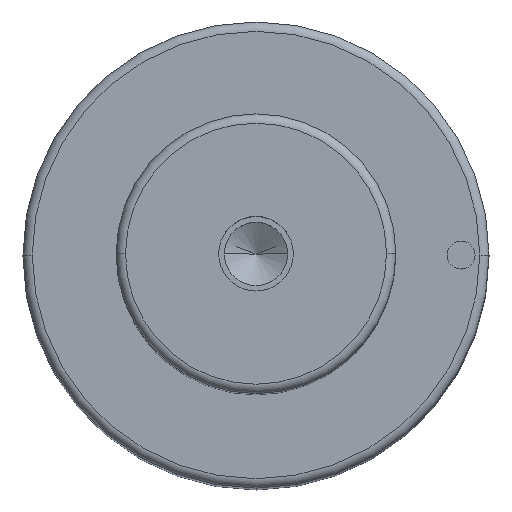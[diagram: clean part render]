
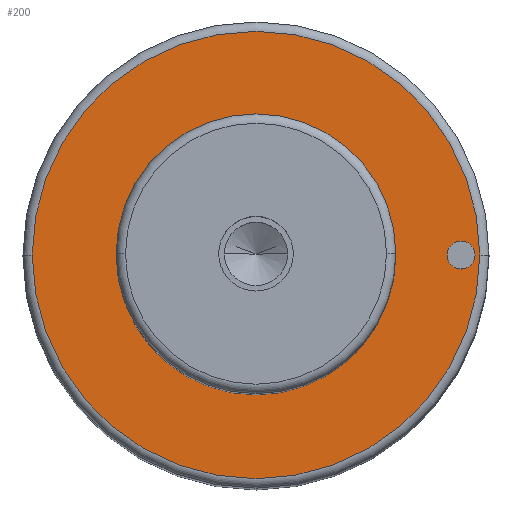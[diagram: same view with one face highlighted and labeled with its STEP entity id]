
A CAD part, top view. The second image highlights one B-rep face of the part: STEP entity #200.
In plain terms, the highlighted planar face has unit normal (0, 0, 1).
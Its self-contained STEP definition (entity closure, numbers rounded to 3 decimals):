
#99=PLANE('',#596);
#107=FACE_BOUND('',#265,.T.);
#108=FACE_BOUND('',#266,.T.);
#109=FACE_BOUND('',#267,.T.);
#200=ADVANCED_FACE('',(#107,#108,#109),#99,.T.);
#265=EDGE_LOOP('',(#359,#360));
#266=EDGE_LOOP('',(#361,#362));
#267=EDGE_LOOP('',(#363,#364));
#359=ORIENTED_EDGE('',*,*,#460,.F.);
#360=ORIENTED_EDGE('',*,*,#461,.F.);
#361=ORIENTED_EDGE('',*,*,#485,.F.);
#362=ORIENTED_EDGE('',*,*,#486,.F.);
#363=ORIENTED_EDGE('',*,*,#456,.T.);
#364=ORIENTED_EDGE('',*,*,#454,.T.);
#411=VERTEX_POINT('',#808);
#412=VERTEX_POINT('',#810);
#413=VERTEX_POINT('',#816);
#416=VERTEX_POINT('',#821);
#430=VERTEX_POINT('',#875);
#431=VERTEX_POINT('',#876);
#454=EDGE_CURVE('',#412,#411,#513,.T.);
#456=EDGE_CURVE('',#411,#412,#514,.T.);
#460=EDGE_CURVE('',#416,#413,#518,.T.);
#461=EDGE_CURVE('',#413,#416,#519,.T.);
#485=EDGE_CURVE('',#430,#431,#533,.T.);
#486=EDGE_CURVE('',#431,#430,#534,.T.);
#513=CIRCLE('',#558,15.);
#514=CIRCLE('',#560,15.);
#518=CIRCLE('',#565,24.);
#519=CIRCLE('',#567,24.);
#533=CIRCLE('',#594,1.5);
#534=CIRCLE('',#595,1.5);
#558=AXIS2_PLACEMENT_3D('',#809,#647,#648);
#560=AXIS2_PLACEMENT_3D('',#813,#652,#653);
#565=AXIS2_PLACEMENT_3D('',#822,#662,#663);
#567=AXIS2_PLACEMENT_3D('',#824,#666,#667);
#594=AXIS2_PLACEMENT_3D('',#874,#730,#731);
#595=AXIS2_PLACEMENT_3D('',#877,#732,#733);
#596=AXIS2_PLACEMENT_3D('',#878,#734,#735);
#647=DIRECTION('',(0.,0.,-1.));
#648=DIRECTION('',(0.,1.,0.));
#652=DIRECTION('',(0.,0.,-1.));
#653=DIRECTION('',(0.,-1.,0.));
#662=DIRECTION('',(0.,0.,-1.));
#663=DIRECTION('',(0.,1.,0.));
#666=DIRECTION('',(0.,0.,-1.));
#667=DIRECTION('',(0.,-1.,0.));
#730=DIRECTION('',(0.,0.,1.));
#731=DIRECTION('',(0.,1.,0.));
#732=DIRECTION('',(0.,0.,1.));
#733=DIRECTION('',(0.,-1.,0.));
#734=DIRECTION('',(0.,0.,1.));
#735=DIRECTION('',(0.,-1.,0.));
#808=CARTESIAN_POINT('',(-15.,0.,119.));
#809=CARTESIAN_POINT('',(0.,0.,119.));
#810=CARTESIAN_POINT('',(15.,0.,119.));
#813=CARTESIAN_POINT('',(0.,0.,119.));
#816=CARTESIAN_POINT('',(-24.,0.,119.));
#821=CARTESIAN_POINT('',(24.,0.,119.));
#822=CARTESIAN_POINT('',(0.,0.,119.));
#824=CARTESIAN_POINT('',(0.,0.,119.));
#874=CARTESIAN_POINT('',(22.,0.,119.));
#875=CARTESIAN_POINT('',(20.5,0.,119.));
#876=CARTESIAN_POINT('',(23.5,0.,119.));
#877=CARTESIAN_POINT('',(22.,0.,119.));
#878=CARTESIAN_POINT('',(0.,0.,119.));
